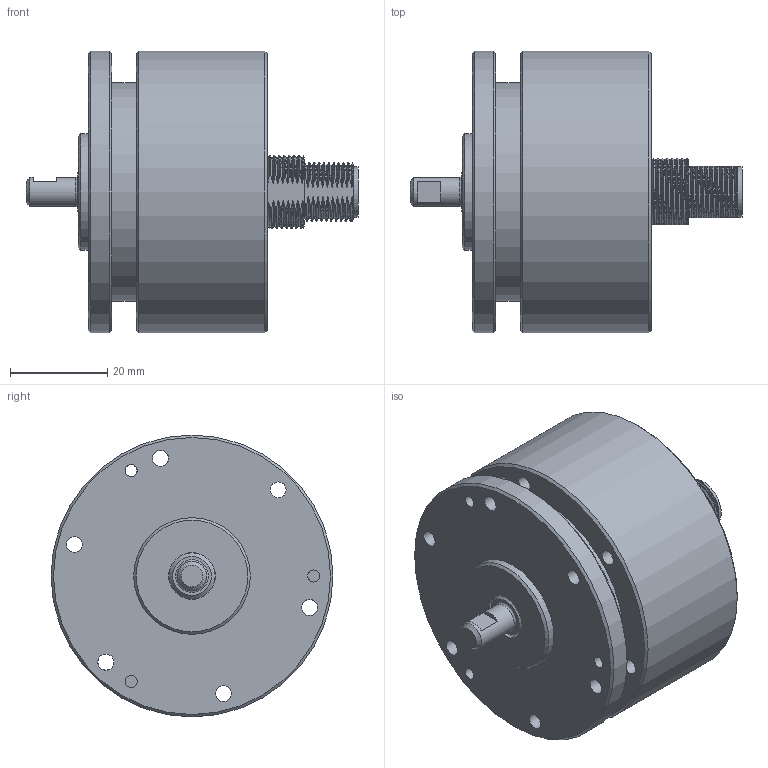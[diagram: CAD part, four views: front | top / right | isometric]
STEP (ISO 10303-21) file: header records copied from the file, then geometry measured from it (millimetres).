
FILE_DESCRIPTION(/* description */ (''),/* implementation_level */ '2;1');
FILE_NAME(/* name */ 'J158-CUST-ASSY-WRAP.step',/* time_stamp */ '2024-06-17T08:56:51-05:00',/* author */ (''),/* organization */ (''),/* preprocessor_version */ 'ST-DEVELOPER v20',/* originating_system */ 'Autodesk Translation Framework v13.14.0.145',/* authorisation */ '');
FILE_SCHEMA (('AUTOMOTIVE_DESIGN { 1 0 10303 214 3 1 1 }'));
Length unit declared in the file: inch
Products named in the file (1): J158-CUST-ASSY-WRAP
Bounding box: 68.22 x 57.91 x 57.91 mm (x, y, z)
Volume: 91546.7 mm3; surface area: 22432.7 mm2
Topology: 1 solids, 1 shells, 413 faces, 1146 edges, 759 vertices
Faces by surface type: bspline 232, cylinder 79, plane 72, cone 21, sphere 5, torus 4
Full cylindrical faces by diameter (mm): 1 x5, 2.438 x1, 2.478 x3, 3.264 x6, 3.277 x3, 3.307 x3, 5.982 x1, 8.3 x1, 9.515 x1, 9.525 x1, 9.576 x1, 10.4 x1, 13 x1, 14.549 x1, 17.201 x1, 19.05 x1, 23.952 x1, 44.958 x1, 45.06 x1, 45.466 x1, 57.912 x2
Entity records: 24263 total; most frequent: CARTESIAN_POINT 15607, ORIENTED_EDGE 2282, EDGE_CURVE 1141, DIRECTION 932, VERTEX_POINT 759, B_SPLINE_CURVE_WITH_KNOTS 731, EDGE_LOOP 474, FACE_OUTER_BOUND 413
